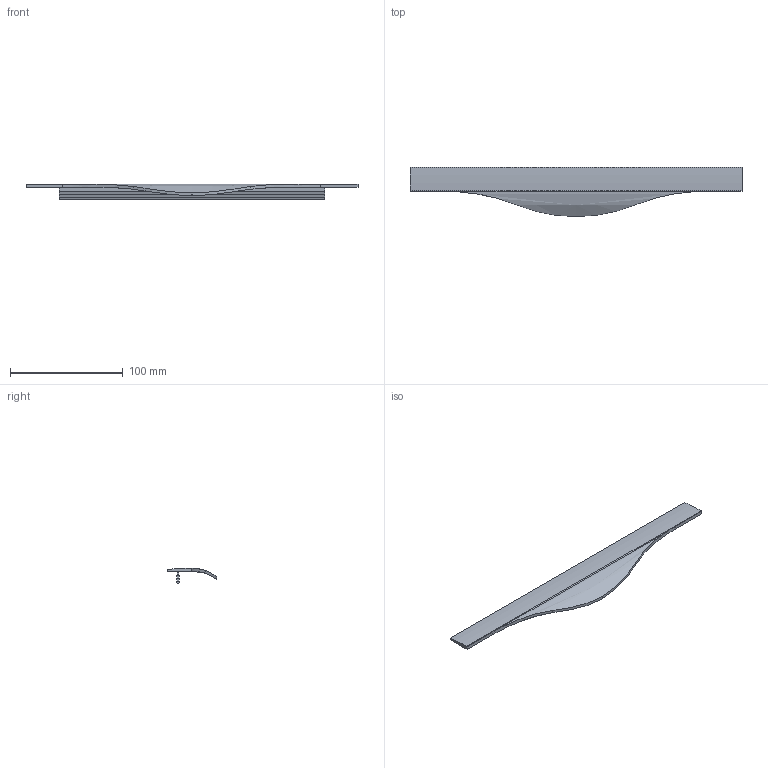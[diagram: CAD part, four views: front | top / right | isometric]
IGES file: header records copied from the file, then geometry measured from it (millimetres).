
Start section: Data from Parasolid IGES Translator 15.0.47, Copyright(c) 2006 Siemens P LM Software. All Rights Reserved.
Global section: file name: 9210060.igs; native system:  By UGS Corp.; preprocessor: XPlus GENERIC/IGES 3.0; author: Noname; organization: Noname; date: 20160304.162549; units: millimetre
Bounding box: 295 x 43.67 x 14 mm (x, y, z)
Surface area: 25629.1 mm2 (no closed solid volume)
Topology: 0 solids, 0 shells, 32 faces, 174 edges, 174 vertices
Faces by surface type: extrusion 25, revolution 7
